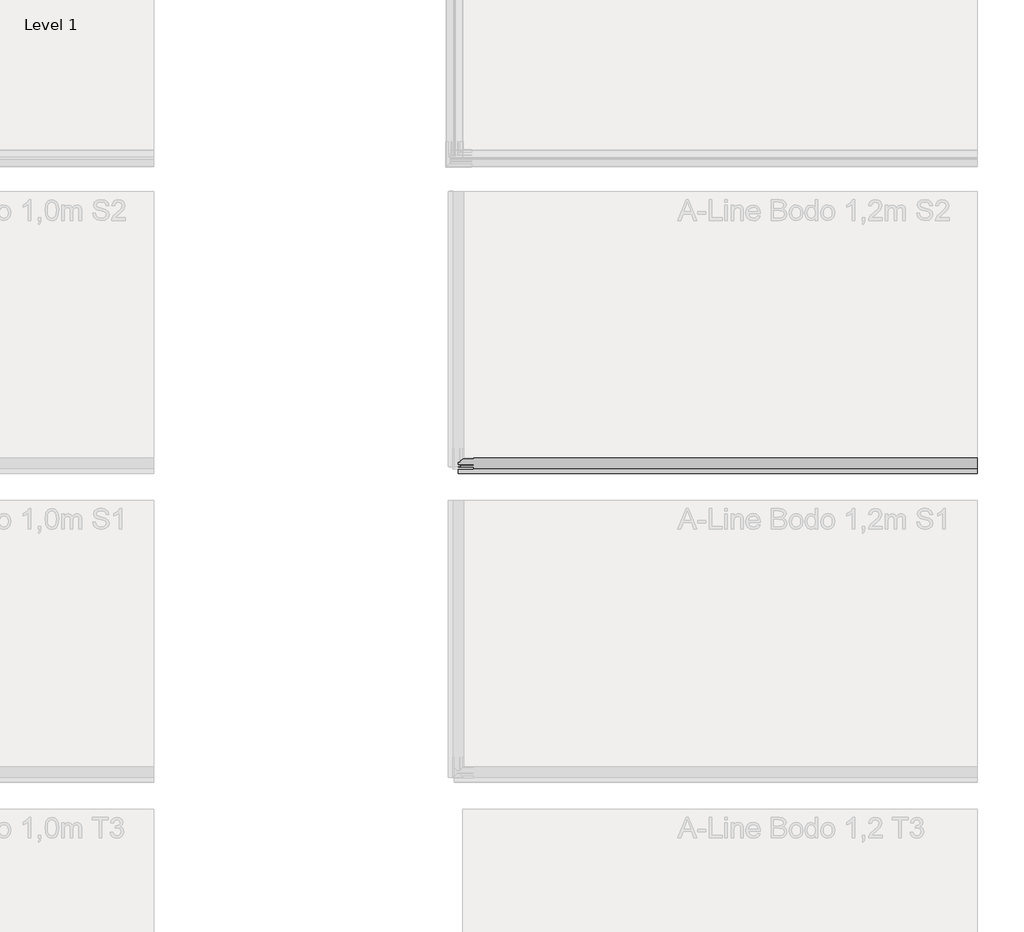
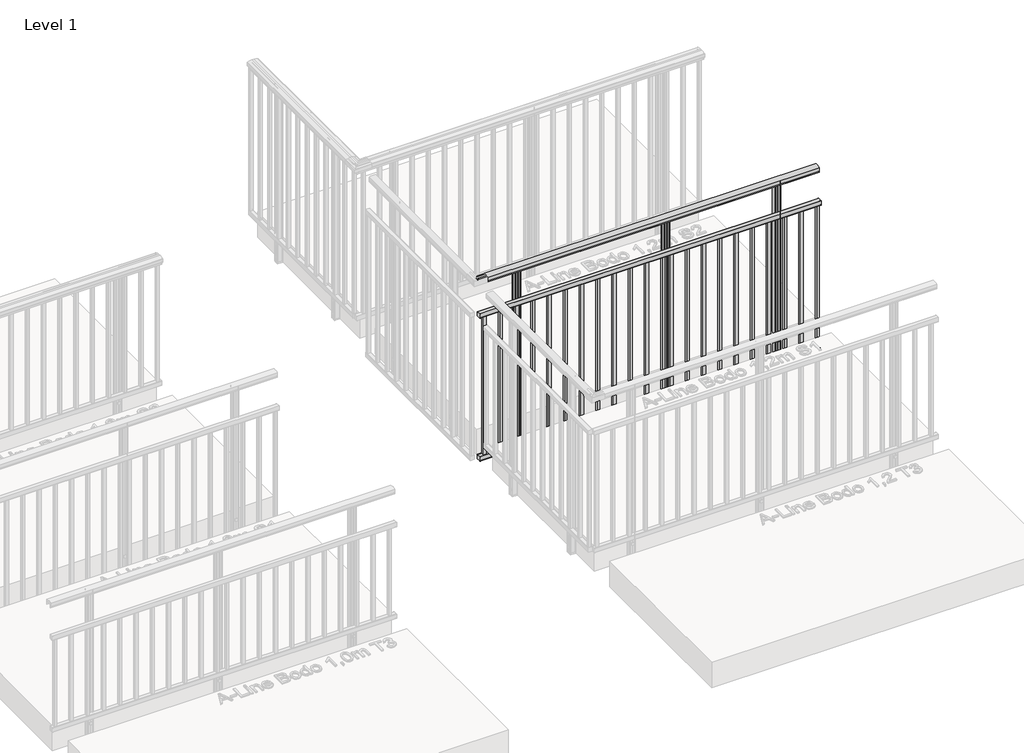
# One storey, part 7 of 66: 1 railing.
"""IFC4 building model written with IfcOpenShell, lengths in millimetres."""

from ifc_helpers import new_model, si_unit, point, frame, frame_2d, origin, place, context, project, spatial, polyline, circle_curve, trimmed, segment, composite_curve, outline, extrude, element, save

model = new_model("IFC4")

# Units and contexts
model_context = context("Model", 3, world=origin())
ifc_project = project(units=[si_unit("LENGTHUNIT", "METRE", prefix="MILLI")], contexts=[model_context])

# Site, building, storey
site = spatial("IfcSite", under=ifc_project)
building = spatial("IfcBuilding", under=site)
storey = spatial("IfcBuildingStorey", under=building, Name="Level 1", Elevation=0.0)

# Railing
placement = place(None, origin())
element("IfcRailing", 1, ObjectType="A-Line Bodo 1,2m S2", at=placement, inside=storey, context=model_context, shape_type="SweptSolid", body=[
    extrude(outline(composite_curve([segment(polyline([(-16065.1717719, 1194.1390059), (-16065.1717719, 1167.1990555), (-16065.7865549, 1166.5842725), (-16065.1717719, 1165.9694895), (-16065.1717719, 1157.2498847), (-16066.9315805, 1157.2498847), (-16066.9315805, 1180.4998829), (-16113.9266266, 1180.4998829), (-16113.9266266, 1157.2498847), (-16115.7315795, 1157.2498847), (-16115.7315795, 1165.8194895), (-16115.1094985, 1166.4415706), (-16115.6914302, 1167.0235023), (-16115.6914302, 1194.1342258)]), True, "CONTINUOUS"), segment(trimmed(circle_curve(frame_2d((-16090.4267322, 1142.6785502)), 57.3235687), [point((-16115.6914302, 1194.1342258))], [point((-16065.1717719, 1194.1390059))], False, "CARTESIAN"), True, "CONTINUOUS")], self_intersect=False)), frame((8484.0547322, 0.0, 0.0), z_axis=(1.0, 0.0, 0.0), x_axis=(0.0, 1.0, 0.0)), (0.0, 0.0, 1.0), 2520.0),
    extrude(outline(composite_curve([segment(trimmed(circle_curve(frame_2d((-16138.2613559, 949.0)), 1.0), [point((-16139.2613559, 949.0))], [point((-16138.2613559, 950.0))], False, "CARTESIAN"), True, "CONTINUOUS"), segment(polyline([(-16138.2613559, 950.0), (-16111.1613559, 950.0)]), True, "CONTINUOUS"), segment(trimmed(circle_curve(frame_2d((-16111.1613559, 949.0)), 1.0), [point((-16111.1613559, 950.0))], [point((-16110.1613559, 949.0))], False, "CARTESIAN"), True, "CONTINUOUS"), segment(polyline([(-16110.1613559, 949.0), (-16110.1613559, 916.8)]), True, "CONTINUOUS"), segment(trimmed(circle_curve(frame_2d((-16111.1613559, 916.8)), 1.0), [point((-16110.1613559, 916.8))], [point((-16111.1613559, 915.8))], False, "CARTESIAN"), True, "CONTINUOUS"), segment(polyline([(-16111.1613559, 915.8), (-16138.2613559, 915.8)]), True, "CONTINUOUS"), segment(trimmed(circle_curve(frame_2d((-16138.2613559, 916.8)), 1.0), [point((-16138.2613559, 915.8))], [point((-16139.2613559, 916.8))], False, "CARTESIAN"), True, "CONTINUOUS"), segment(polyline([(-16139.2613559, 916.8), (-16139.2613559, 949.0)]), True, "CONTINUOUS")], self_intersect=False)), frame((8484.0547322, 0.0, 0.0), z_axis=(1.0, 0.0, 0.0), x_axis=(0.0, 1.0, 0.0)), (0.0, 0.0, 1.0), 2520.0),
    extrude(outline(composite_curve([segment(polyline([(-16138.2613559, -165.8), (-16111.1613559, -165.8)]), True, "CONTINUOUS"), segment(trimmed(circle_curve(frame_2d((-16111.1613559, -166.8)), 1.0), [point((-16111.1613559, -165.8))], [point((-16110.1613559, -166.8))], False, "CARTESIAN"), True, "CONTINUOUS"), segment(polyline([(-16110.1613559, -166.8), (-16110.1613559, -199.0)]), True, "CONTINUOUS"), segment(trimmed(circle_curve(frame_2d((-16111.1613559, -199.0)), 1.0), [point((-16110.1613559, -199.0))], [point((-16111.1613559, -200.0))], False, "CARTESIAN"), True, "CONTINUOUS"), segment(polyline([(-16111.1613559, -200.0), (-16138.2613559, -200.0)]), True, "CONTINUOUS"), segment(trimmed(circle_curve(frame_2d((-16138.2613559, -199.0)), 1.0), [point((-16138.2613559, -200.0))], [point((-16139.2613559, -199.0))], False, "CARTESIAN"), True, "CONTINUOUS"), segment(polyline([(-16139.2613559, -199.0), (-16139.2613559, -166.8)]), True, "CONTINUOUS"), segment(trimmed(circle_curve(frame_2d((-16138.2613559, -166.8)), 1.0), [point((-16139.2613559, -166.8))], [point((-16138.2613559, -165.8))], False, "CARTESIAN"), True, "CONTINUOUS")], self_intersect=False)), frame((8484.0547322, 0.0, 0.0), z_axis=(1.0, 0.0, 0.0), x_axis=(0.0, 1.0, 0.0)), (0.0, 0.0, 1.0), 2520.0),
    extrude(outline(polyline([(10974.0547322, -16134.7113559), (10974.0547322, -16114.7113559), (10994.0547322, -16114.7113559), (10994.0547322, -16134.7113559), (10974.0547322, -16134.7113559)]), holes=[polyline([(10976.0547322, -16132.7113559), (10992.0547322, -16132.7113559), (10992.0547322, -16116.7113559), (10976.0547322, -16116.7113559), (10976.0547322, -16132.7113559)])]), frame((0.0, 0.0, -166.0), z_axis=(0.0, 0.0, 1.0), x_axis=(1.0, 0.0, 0.0)), (0.0, 0.0, 1.0), 1082.0),
    extrude(outline(polyline([(10854.0547322, -16134.7113559), (10854.0547322, -16114.7113559), (10874.0547322, -16114.7113559), (10874.0547322, -16134.7113559), (10854.0547322, -16134.7113559)]), holes=[polyline([(10856.0547322, -16132.7113559), (10872.0547322, -16132.7113559), (10872.0547322, -16116.7113559), (10856.0547322, -16116.7113559), (10856.0547322, -16132.7113559)])]), frame((0.0, 0.0, -166.0), z_axis=(0.0, 0.0, 1.0), x_axis=(1.0, 0.0, 0.0)), (0.0, 0.0, 1.0), 1082.0),
    extrude(outline(polyline([(10734.0547322, -16134.7113559), (10734.0547322, -16114.7113559), (10754.0547322, -16114.7113559), (10754.0547322, -16134.7113559), (10734.0547322, -16134.7113559)]), holes=[polyline([(10736.0547322, -16132.7113559), (10752.0547322, -16132.7113559), (10752.0547322, -16116.7113559), (10736.0547322, -16116.7113559), (10736.0547322, -16132.7113559)])]), frame((0.0, 0.0, -166.0), z_axis=(0.0, 0.0, 1.0), x_axis=(1.0, 0.0, 0.0)), (0.0, 0.0, 1.0), 1082.0),
    extrude(outline(polyline([(10614.0547322, -16134.7113559), (10614.0547322, -16114.7113559), (10634.0547322, -16114.7113559), (10634.0547322, -16134.7113559), (10614.0547322, -16134.7113559)]), holes=[polyline([(10616.0547322, -16132.7113559), (10632.0547322, -16132.7113559), (10632.0547322, -16116.7113559), (10616.0547322, -16116.7113559), (10616.0547322, -16132.7113559)])]), frame((0.0, 0.0, -166.0), z_axis=(0.0, 0.0, 1.0), x_axis=(1.0, 0.0, 0.0)), (0.0, 0.0, 1.0), 1082.0),
    extrude(outline(polyline([(10494.0547322, -16134.7113559), (10494.0547322, -16114.7113559), (10514.0547322, -16114.7113559), (10514.0547322, -16134.7113559), (10494.0547322, -16134.7113559)]), holes=[polyline([(10496.0547322, -16132.7113559), (10512.0547322, -16132.7113559), (10512.0547322, -16116.7113559), (10496.0547322, -16116.7113559), (10496.0547322, -16132.7113559)])]), frame((0.0, 0.0, -166.0), z_axis=(0.0, 0.0, 1.0), x_axis=(1.0, 0.0, 0.0)), (0.0, 0.0, 1.0), 1082.0),
    extrude(outline(polyline([(10374.0547322, -16134.7113559), (10374.0547322, -16114.7113559), (10394.0547322, -16114.7113559), (10394.0547322, -16134.7113559), (10374.0547322, -16134.7113559)]), holes=[polyline([(10376.0547322, -16132.7113559), (10392.0547322, -16132.7113559), (10392.0547322, -16116.7113559), (10376.0547322, -16116.7113559), (10376.0547322, -16132.7113559)])]), frame((0.0, 0.0, -166.0), z_axis=(0.0, 0.0, 1.0), x_axis=(1.0, 0.0, 0.0)), (0.0, 0.0, 1.0), 1082.0),
    extrude(outline(polyline([(10254.0547322, -16134.7113559), (10254.0547322, -16114.7113559), (10274.0547322, -16114.7113559), (10274.0547322, -16134.7113559), (10254.0547322, -16134.7113559)]), holes=[polyline([(10256.0547322, -16132.7113559), (10272.0547322, -16132.7113559), (10272.0547322, -16116.7113559), (10256.0547322, -16116.7113559), (10256.0547322, -16132.7113559)])]), frame((0.0, 0.0, -166.0), z_axis=(0.0, 0.0, 1.0), x_axis=(1.0, 0.0, 0.0)), (0.0, 0.0, 1.0), 1082.0),
    extrude(outline(polyline([(10134.0547322, -16134.7113559), (10134.0547322, -16114.7113559), (10154.0547322, -16114.7113559), (10154.0547322, -16134.7113559), (10134.0547322, -16134.7113559)]), holes=[polyline([(10136.0547322, -16132.7113559), (10152.0547322, -16132.7113559), (10152.0547322, -16116.7113559), (10136.0547322, -16116.7113559), (10136.0547322, -16132.7113559)])]), frame((0.0, 0.0, -166.0), z_axis=(0.0, 0.0, 1.0), x_axis=(1.0, 0.0, 0.0)), (0.0, 0.0, 1.0), 1082.0),
    extrude(outline(polyline([(10014.0547322, -16134.7113559), (10014.0547322, -16114.7113559), (10034.0547322, -16114.7113559), (10034.0547322, -16134.7113559), (10014.0547322, -16134.7113559)]), holes=[polyline([(10016.0547322, -16132.7113559), (10032.0547322, -16132.7113559), (10032.0547322, -16116.7113559), (10016.0547322, -16116.7113559), (10016.0547322, -16132.7113559)])]), frame((0.0, 0.0, -166.0), z_axis=(0.0, 0.0, 1.0), x_axis=(1.0, 0.0, 0.0)), (0.0, 0.0, 1.0), 1082.0),
    extrude(outline(polyline([(9894.0547322, -16134.7113559), (9894.0547322, -16114.7113559), (9914.0547322, -16114.7113559), (9914.0547322, -16134.7113559), (9894.0547322, -16134.7113559)]), holes=[polyline([(9896.0547322, -16132.7113559), (9912.0547322, -16132.7113559), (9912.0547322, -16116.7113559), (9896.0547322, -16116.7113559), (9896.0547322, -16132.7113559)])]), frame((0.0, 0.0, -166.0), z_axis=(0.0, 0.0, 1.0), x_axis=(1.0, 0.0, 0.0)), (0.0, 0.0, 1.0), 1082.0),
    extrude(outline(polyline([(9834.0547322, -16134.7113559), (9834.0547322, -16114.7113559), (9854.0547322, -16114.7113559), (9854.0547322, -16134.7113559), (9834.0547322, -16134.7113559)]), holes=[polyline([(9836.0547322, -16132.7113559), (9852.0547322, -16132.7113559), (9852.0547322, -16116.7113559), (9836.0547322, -16116.7113559), (9836.0547322, -16132.7113559)])]), frame((0.0, 0.0, -166.0), z_axis=(0.0, 0.0, 1.0), x_axis=(1.0, 0.0, 0.0)), (0.0, 0.0, 1.0), 1082.0),
    extrude(outline(polyline([(9714.0547322, -16134.7113559), (9714.0547322, -16114.7113559), (9734.0547322, -16114.7113559), (9734.0547322, -16134.7113559), (9714.0547322, -16134.7113559)]), holes=[polyline([(9716.0547322, -16132.7113559), (9732.0547322, -16132.7113559), (9732.0547322, -16116.7113559), (9716.0547322, -16116.7113559), (9716.0547322, -16132.7113559)])]), frame((0.0, 0.0, -166.0), z_axis=(0.0, 0.0, 1.0), x_axis=(1.0, 0.0, 0.0)), (0.0, 0.0, 1.0), 1082.0),
    extrude(outline(polyline([(9594.0547322, -16134.7113559), (9594.0547322, -16114.7113559), (9614.0547322, -16114.7113559), (9614.0547322, -16134.7113559), (9594.0547322, -16134.7113559)]), holes=[polyline([(9596.0547322, -16132.7113559), (9612.0547322, -16132.7113559), (9612.0547322, -16116.7113559), (9596.0547322, -16116.7113559), (9596.0547322, -16132.7113559)])]), frame((0.0, 0.0, -166.0), z_axis=(0.0, 0.0, 1.0), x_axis=(1.0, 0.0, 0.0)), (0.0, 0.0, 1.0), 1082.0),
    extrude(outline(polyline([(9474.0547322, -16134.7113559), (9474.0547322, -16114.7113559), (9494.0547322, -16114.7113559), (9494.0547322, -16134.7113559), (9474.0547322, -16134.7113559)]), holes=[polyline([(9476.0547322, -16132.7113559), (9492.0547322, -16132.7113559), (9492.0547322, -16116.7113559), (9476.0547322, -16116.7113559), (9476.0547322, -16132.7113559)])]), frame((0.0, 0.0, -166.0), z_axis=(0.0, 0.0, 1.0), x_axis=(1.0, 0.0, 0.0)), (0.0, 0.0, 1.0), 1082.0),
    extrude(outline(polyline([(9354.0547322, -16134.7113559), (9354.0547322, -16114.7113559), (9374.0547322, -16114.7113559), (9374.0547322, -16134.7113559), (9354.0547322, -16134.7113559)]), holes=[polyline([(9356.0547322, -16132.7113559), (9372.0547322, -16132.7113559), (9372.0547322, -16116.7113559), (9356.0547322, -16116.7113559), (9356.0547322, -16132.7113559)])]), frame((0.0, 0.0, -166.0), z_axis=(0.0, 0.0, 1.0), x_axis=(1.0, 0.0, 0.0)), (0.0, 0.0, 1.0), 1082.0),
    extrude(outline(polyline([(9234.0547322, -16134.7113559), (9234.0547322, -16114.7113559), (9254.0547322, -16114.7113559), (9254.0547322, -16134.7113559), (9234.0547322, -16134.7113559)]), holes=[polyline([(9236.0547322, -16132.7113559), (9252.0547322, -16132.7113559), (9252.0547322, -16116.7113559), (9236.0547322, -16116.7113559), (9236.0547322, -16132.7113559)])]), frame((0.0, 0.0, -166.0), z_axis=(0.0, 0.0, 1.0), x_axis=(1.0, 0.0, 0.0)), (0.0, 0.0, 1.0), 1082.0),
    extrude(outline(polyline([(9114.0547322, -16134.7113559), (9114.0547322, -16114.7113559), (9134.0547322, -16114.7113559), (9134.0547322, -16134.7113559), (9114.0547322, -16134.7113559)]), holes=[polyline([(9116.0547322, -16132.7113559), (9132.0547322, -16132.7113559), (9132.0547322, -16116.7113559), (9116.0547322, -16116.7113559), (9116.0547322, -16132.7113559)])]), frame((0.0, 0.0, -166.0), z_axis=(0.0, 0.0, 1.0), x_axis=(1.0, 0.0, 0.0)), (0.0, 0.0, 1.0), 1082.0),
    extrude(outline(polyline([(8994.0547322, -16134.7113559), (8994.0547322, -16114.7113559), (9014.0547322, -16114.7113559), (9014.0547322, -16134.7113559), (8994.0547322, -16134.7113559)]), holes=[polyline([(8996.0547322, -16132.7113559), (9012.0547322, -16132.7113559), (9012.0547322, -16116.7113559), (8996.0547322, -16116.7113559), (8996.0547322, -16132.7113559)])]), frame((0.0, 0.0, -166.0), z_axis=(0.0, 0.0, 1.0), x_axis=(1.0, 0.0, 0.0)), (0.0, 0.0, 1.0), 1082.0),
    extrude(outline(polyline([(8874.0547322, -16134.7113559), (8874.0547322, -16114.7113559), (8894.0547322, -16114.7113559), (8894.0547322, -16134.7113559), (8874.0547322, -16134.7113559)]), holes=[polyline([(8876.0547322, -16132.7113559), (8892.0547322, -16132.7113559), (8892.0547322, -16116.7113559), (8876.0547322, -16116.7113559), (8876.0547322, -16132.7113559)])]), frame((0.0, 0.0, -166.0), z_axis=(0.0, 0.0, 1.0), x_axis=(1.0, 0.0, 0.0)), (0.0, 0.0, 1.0), 1082.0),
    extrude(outline(polyline([(8754.0547322, -16134.7113559), (8754.0547322, -16114.7113559), (8774.0547322, -16114.7113559), (8774.0547322, -16134.7113559), (8754.0547322, -16134.7113559)]), holes=[polyline([(8756.0547322, -16132.7113559), (8772.0547322, -16132.7113559), (8772.0547322, -16116.7113559), (8756.0547322, -16116.7113559), (8756.0547322, -16132.7113559)])]), frame((0.0, 0.0, -166.0), z_axis=(0.0, 0.0, 1.0), x_axis=(1.0, 0.0, 0.0)), (0.0, 0.0, 1.0), 1082.0),
    extrude(outline(polyline([(8634.0547322, -16134.7113559), (8634.0547322, -16114.7113559), (8654.0547322, -16114.7113559), (8654.0547322, -16134.7113559), (8634.0547322, -16134.7113559)]), holes=[polyline([(8636.0547322, -16132.7113559), (8652.0547322, -16132.7113559), (8652.0547322, -16116.7113559), (8636.0547322, -16116.7113559), (8636.0547322, -16132.7113559)])]), frame((0.0, 0.0, -166.0), z_axis=(0.0, 0.0, 1.0), x_axis=(1.0, 0.0, 0.0)), (0.0, 0.0, 1.0), 1082.0),
    extrude(outline(polyline([(8514.0547322, -16134.7113559), (8514.0547322, -16114.7113559), (8534.0547322, -16114.7113559), (8534.0547322, -16134.7113559), (8514.0547322, -16134.7113559)]), holes=[polyline([(8516.0547322, -16132.7113559), (8532.0547322, -16132.7113559), (8532.0547322, -16116.7113559), (8516.0547322, -16116.7113559), (8516.0547322, -16132.7113559)])]), frame((0.0, 0.0, -166.0), z_axis=(0.0, 0.0, 1.0), x_axis=(1.0, 0.0, 0.0)), (0.0, 0.0, 1.0), 1082.0),
    extrude(outline(composite_curve([segment(polyline([(9884.8575193, -16069.7113559), (9901.8808192, -16069.7113559)]), True, "CONTINUOUS"), segment(trimmed(circle_curve(frame_2d((9901.8808192, -16071.885269)), 2.173913), [point((9901.8808192, -16069.7113559))], [point((9904.0547322, -16071.885269))], False, "CARTESIAN"), True, "CONTINUOUS"), segment(polyline([(9904.0547322, -16071.885269), (9904.0547322, -16107.5374429)]), True, "CONTINUOUS"), segment(trimmed(circle_curve(frame_2d((9901.8808192, -16107.5374429)), 2.173913), [point((9904.0547322, -16107.5374429))], [point((9901.8808192, -16109.7113559))], False, "CARTESIAN"), True, "CONTINUOUS"), segment(polyline([(9901.8808192, -16109.7113559), (9884.8225694, -16109.676406), (9884.0547322, -16108.9085689), (9883.2868951, -16109.676406), (9866.2286453, -16109.7113559)]), True, "CONTINUOUS"), segment(trimmed(circle_curve(frame_2d((9866.2286453, -16107.5374429)), 2.173913), [point((9866.2286453, -16109.7113559))], [point((9864.0547322, -16107.5374429))], False, "CARTESIAN"), True, "CONTINUOUS"), segment(polyline([(9864.0547322, -16107.5374429), (9864.0547322, -16071.885269)]), True, "CONTINUOUS"), segment(trimmed(circle_curve(frame_2d((9866.2286453, -16071.885269)), 2.173913), [point((9864.0547322, -16071.885269))], [point((9866.2286452, -16069.7113559))], False, "CARTESIAN"), True, "CONTINUOUS"), segment(polyline([(9866.2286452, -16069.7113559), (9883.2868951, -16069.7463058), (9884.0547322, -16070.5141429), (9884.8575193, -16069.7113559)]), True, "CONTINUOUS")], self_intersect=False)), frame((0.0, 0.0, -200.0), z_axis=(0.0, 0.0, 1.0), x_axis=(1.0, 0.0, 0.0)), (0.0, 0.0, 1.0), 10.0),
    extrude(outline(composite_curve([segment(trimmed(circle_curve(frame_2d((0.0, 12.0)), 12.0), [point((0.0, 23.9999999))], [point((0.0, 0.0))], False, "CARTESIAN"), True, "CONTINUOUS"), segment(trimmed(circle_curve(frame_2d((0.0, 12.0)), 12.0), [point((0.0, 0.0))], [point((0.0, 23.9999999))], False, "CARTESIAN"), True, "CONTINUOUS")], self_intersect=False)), frame((9872.0444554, -16112.7751851, -151.0), z_axis=(0.00040291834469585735, 0.9999999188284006, 0.0), x_axis=(0.0, 0.0, 1.0)), (0.0, 0.0, 1.0), 3.0757477),
    extrude(outline(composite_curve([segment(trimmed(circle_curve(frame_2d((0.0, 12.0)), 12.0), [point((0.0, 23.9999999))], [point((0.0, 0.0))], False, "CARTESIAN"), True, "CONTINUOUS"), segment(trimmed(circle_curve(frame_2d((0.0, 12.0)), 12.0), [point((0.0, 0.0))], [point((0.0, 23.9999999))], False, "CARTESIAN"), True, "CONTINUOUS")], self_intersect=False)), frame((9872.0444554, -16112.7751851, -50.0), z_axis=(0.00040291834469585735, 0.9999999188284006, 0.0), x_axis=(0.0, 0.0, 1.0)), (0.0, 0.0, 1.0), 3.0757477),
    extrude(outline(composite_curve([segment(trimmed(circle_curve(frame_2d((9866.2286453, -16071.885269)), 2.173913), [point((9864.0547322, -16071.885269))], [point((9866.2286453, -16069.7113559))], False, "CARTESIAN"), True, "CONTINUOUS"), segment(polyline([(9866.2286453, -16069.7113559), (9883.2868951, -16069.7463058), (9884.185167, -16070.1143102), (9884.9530042, -16069.7113559), (9901.8808192, -16069.7113559)]), True, "CONTINUOUS"), segment(trimmed(circle_curve(frame_2d((9901.8808192, -16071.885269)), 2.173913), [point((9901.8808192, -16069.7113559))], [point((9904.0547322, -16071.885269))], False, "CARTESIAN"), True, "CONTINUOUS"), segment(polyline([(9904.0547322, -16071.885269), (9904.0547322, -16107.5374429)]), True, "CONTINUOUS"), segment(trimmed(circle_curve(frame_2d((9901.8808192, -16107.5374429)), 2.173913), [point((9904.0547322, -16107.5374429))], [point((9901.8808192, -16109.7113559))], False, "CARTESIAN"), True, "CONTINUOUS"), segment(polyline([(9901.8808192, -16109.7113559), (9884.8225694, -16109.676406), (9884.0547322, -16108.9085689), (9883.2868951, -16109.676406), (9866.2286453, -16109.7113559)]), True, "CONTINUOUS"), segment(trimmed(circle_curve(frame_2d((9866.2286453, -16107.5374429)), 2.173913), [point((9866.2286453, -16109.7113559))], [point((9864.0547322, -16107.5374429))], False, "CARTESIAN"), True, "CONTINUOUS"), segment(polyline([(9864.0547322, -16107.5374429), (9864.0547322, -16071.885269)]), True, "CONTINUOUS")], self_intersect=False), holes=[composite_curve([segment(polyline([(9867.5329931, -16074.059182), (9867.5329931, -16105.3635298)]), True, "CONTINUOUS"), segment(trimmed(circle_curve(frame_2d((9868.4025583, -16105.3635298)), 0.8695652), [point((9867.5329931, -16105.3635298))], [point((9868.4025583, -16106.233095))], True, "CARTESIAN"), True, "CONTINUOUS"), segment(polyline([(9868.4025583, -16106.233095), (9899.7069062, -16106.233095)]), True, "CONTINUOUS"), segment(trimmed(circle_curve(frame_2d((9899.7069062, -16105.3635298)), 0.8695652), [point((9899.7069062, -16106.233095))], [point((9900.5764714, -16105.3635298))], True, "CARTESIAN"), True, "CONTINUOUS"), segment(polyline([(9900.5764714, -16105.3635298), (9900.5764714, -16074.059182)]), True, "CONTINUOUS"), segment(trimmed(circle_curve(frame_2d((9899.7069062, -16074.059182)), 0.8695652), [point((9900.5764714, -16074.059182))], [point((9899.7069062, -16073.1896168))], True, "CARTESIAN"), True, "CONTINUOUS"), segment(polyline([(9899.7069062, -16073.1896168), (9868.4025583, -16073.1896168)]), True, "CONTINUOUS"), segment(trimmed(circle_curve(frame_2d((9868.4025583, -16074.059182)), 0.8695652), [point((9868.4025583, -16073.1896168))], [point((9867.5329931, -16074.059182))], True, "CARTESIAN"), True, "CONTINUOUS")], self_intersect=False)]), frame((0.0, 0.0, -190.0), z_axis=(0.0, 0.0, 1.0), x_axis=(1.0, 0.0, 0.0)), (0.0, 0.0, 1.0), 1370.0),
    extrude(outline(composite_curve([segment(polyline([(10704.8575193, -16069.7113559), (10721.8808192, -16069.7113559)]), True, "CONTINUOUS"), segment(trimmed(circle_curve(frame_2d((10721.8808192, -16071.885269)), 2.173913), [point((10721.8808192, -16069.7113559))], [point((10724.0547322, -16071.885269))], False, "CARTESIAN"), True, "CONTINUOUS"), segment(polyline([(10724.0547322, -16071.885269), (10724.0547322, -16107.5374429)]), True, "CONTINUOUS"), segment(trimmed(circle_curve(frame_2d((10721.8808192, -16107.5374429)), 2.173913), [point((10724.0547322, -16107.5374429))], [point((10721.8808192, -16109.7113559))], False, "CARTESIAN"), True, "CONTINUOUS"), segment(polyline([(10721.8808192, -16109.7113559), (10704.8225694, -16109.676406), (10704.0547322, -16108.9085689), (10703.2868951, -16109.676406), (10686.2286453, -16109.7113559)]), True, "CONTINUOUS"), segment(trimmed(circle_curve(frame_2d((10686.2286453, -16107.5374429)), 2.173913), [point((10686.2286453, -16109.7113559))], [point((10684.0547322, -16107.5374429))], False, "CARTESIAN"), True, "CONTINUOUS"), segment(polyline([(10684.0547322, -16107.5374429), (10684.0547322, -16071.885269)]), True, "CONTINUOUS"), segment(trimmed(circle_curve(frame_2d((10686.2286453, -16071.885269)), 2.173913), [point((10684.0547322, -16071.885269))], [point((10686.2286452, -16069.7113559))], False, "CARTESIAN"), True, "CONTINUOUS"), segment(polyline([(10686.2286452, -16069.7113559), (10703.2868951, -16069.7463058), (10704.0547322, -16070.5141429), (10704.8575193, -16069.7113559)]), True, "CONTINUOUS")], self_intersect=False)), frame((0.0, 0.0, -200.0), z_axis=(0.0, 0.0, 1.0), x_axis=(1.0, 0.0, 0.0)), (0.0, 0.0, 1.0), 10.0),
    extrude(outline(composite_curve([segment(trimmed(circle_curve(frame_2d((0.0, 12.0)), 12.0), [point((0.0, 23.9999999))], [point((0.0, 0.0))], False, "CARTESIAN"), True, "CONTINUOUS"), segment(trimmed(circle_curve(frame_2d((0.0, 12.0)), 12.0), [point((0.0, 0.0))], [point((0.0, 23.9999999))], False, "CARTESIAN"), True, "CONTINUOUS")], self_intersect=False)), frame((10692.0444554, -16112.7751851, -151.0), z_axis=(0.0004029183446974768, 0.9999999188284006, 0.0), x_axis=(0.0, 0.0, 1.0)), (0.0, 0.0, 1.0), 3.0757477),
    extrude(outline(composite_curve([segment(trimmed(circle_curve(frame_2d((0.0, 12.0)), 12.0), [point((0.0, 23.9999999))], [point((0.0, 0.0))], False, "CARTESIAN"), True, "CONTINUOUS"), segment(trimmed(circle_curve(frame_2d((0.0, 12.0)), 12.0), [point((0.0, 0.0))], [point((0.0, 23.9999999))], False, "CARTESIAN"), True, "CONTINUOUS")], self_intersect=False)), frame((10692.0444554, -16112.7751851, -50.0), z_axis=(0.0004029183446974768, 0.9999999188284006, 0.0), x_axis=(0.0, 0.0, 1.0)), (0.0, 0.0, 1.0), 3.0757477),
    extrude(outline(composite_curve([segment(trimmed(circle_curve(frame_2d((10686.2286453, -16071.885269)), 2.173913), [point((10684.0547322, -16071.885269))], [point((10686.2286453, -16069.7113559))], False, "CARTESIAN"), True, "CONTINUOUS"), segment(polyline([(10686.2286453, -16069.7113559), (10703.2868951, -16069.7463058), (10704.185167, -16070.1143102), (10704.9530042, -16069.7113559), (10721.8808192, -16069.7113559)]), True, "CONTINUOUS"), segment(trimmed(circle_curve(frame_2d((10721.8808192, -16071.885269)), 2.173913), [point((10721.8808192, -16069.7113559))], [point((10724.0547322, -16071.885269))], False, "CARTESIAN"), True, "CONTINUOUS"), segment(polyline([(10724.0547322, -16071.885269), (10724.0547322, -16107.5374429)]), True, "CONTINUOUS"), segment(trimmed(circle_curve(frame_2d((10721.8808192, -16107.5374429)), 2.173913), [point((10724.0547322, -16107.5374429))], [point((10721.8808192, -16109.7113559))], False, "CARTESIAN"), True, "CONTINUOUS"), segment(polyline([(10721.8808192, -16109.7113559), (10704.8225694, -16109.676406), (10704.0547322, -16108.9085689), (10703.2868951, -16109.676406), (10686.2286453, -16109.7113559)]), True, "CONTINUOUS"), segment(trimmed(circle_curve(frame_2d((10686.2286453, -16107.5374429)), 2.173913), [point((10686.2286453, -16109.7113559))], [point((10684.0547322, -16107.5374429))], False, "CARTESIAN"), True, "CONTINUOUS"), segment(polyline([(10684.0547322, -16107.5374429), (10684.0547322, -16071.885269)]), True, "CONTINUOUS")], self_intersect=False), holes=[composite_curve([segment(polyline([(10687.5329931, -16074.059182), (10687.5329931, -16105.3635298)]), True, "CONTINUOUS"), segment(trimmed(circle_curve(frame_2d((10688.4025583, -16105.3635298)), 0.8695652), [point((10687.5329931, -16105.3635298))], [point((10688.4025583, -16106.233095))], True, "CARTESIAN"), True, "CONTINUOUS"), segment(polyline([(10688.4025583, -16106.233095), (10719.7069062, -16106.233095)]), True, "CONTINUOUS"), segment(trimmed(circle_curve(frame_2d((10719.7069062, -16105.3635298)), 0.8695652), [point((10719.7069062, -16106.233095))], [point((10720.5764714, -16105.3635298))], True, "CARTESIAN"), True, "CONTINUOUS"), segment(polyline([(10720.5764714, -16105.3635298), (10720.5764714, -16074.059182)]), True, "CONTINUOUS"), segment(trimmed(circle_curve(frame_2d((10719.7069062, -16074.059182)), 0.8695652), [point((10720.5764714, -16074.059182))], [point((10719.7069062, -16073.1896168))], True, "CARTESIAN"), True, "CONTINUOUS"), segment(polyline([(10719.7069062, -16073.1896168), (10688.4025583, -16073.1896168)]), True, "CONTINUOUS"), segment(trimmed(circle_curve(frame_2d((10688.4025583, -16074.059182)), 0.8695652), [point((10688.4025583, -16073.1896168))], [point((10687.5329931, -16074.059182))], True, "CARTESIAN"), True, "CONTINUOUS")], self_intersect=False)]), frame((0.0, 0.0, -190.0), z_axis=(0.0, 0.0, 1.0), x_axis=(1.0, 0.0, 0.0)), (0.0, 0.0, 1.0), 1371.0),
    extrude(outline(composite_curve([segment(polyline([(8784.8575193, -16069.7113559), (8801.8808192, -16069.7113559)]), True, "CONTINUOUS"), segment(trimmed(circle_curve(frame_2d((8801.8808192, -16071.885269)), 2.173913), [point((8801.8808192, -16069.7113559))], [point((8804.0547322, -16071.885269))], False, "CARTESIAN"), True, "CONTINUOUS"), segment(polyline([(8804.0547322, -16071.885269), (8804.0547322, -16107.5374429)]), True, "CONTINUOUS"), segment(trimmed(circle_curve(frame_2d((8801.8808192, -16107.5374429)), 2.173913), [point((8804.0547322, -16107.5374429))], [point((8801.8808192, -16109.7113559))], False, "CARTESIAN"), True, "CONTINUOUS"), segment(polyline([(8801.8808192, -16109.7113559), (8784.8225694, -16109.676406), (8784.0547322, -16108.9085689), (8783.2868951, -16109.676406), (8766.2286453, -16109.7113559)]), True, "CONTINUOUS"), segment(trimmed(circle_curve(frame_2d((8766.2286453, -16107.5374429)), 2.173913), [point((8766.2286453, -16109.7113559))], [point((8764.0547322, -16107.5374429))], False, "CARTESIAN"), True, "CONTINUOUS"), segment(polyline([(8764.0547322, -16107.5374429), (8764.0547322, -16071.885269)]), True, "CONTINUOUS"), segment(trimmed(circle_curve(frame_2d((8766.2286453, -16071.885269)), 2.173913), [point((8764.0547322, -16071.885269))], [point((8766.2286452, -16069.7113559))], False, "CARTESIAN"), True, "CONTINUOUS"), segment(polyline([(8766.2286452, -16069.7113559), (8783.2868951, -16069.7463058), (8784.0547322, -16070.5141429), (8784.8575193, -16069.7113559)]), True, "CONTINUOUS")], self_intersect=False)), frame((0.0, 0.0, -200.0), z_axis=(0.0, 0.0, 1.0), x_axis=(1.0, 0.0, 0.0)), (0.0, 0.0, 1.0), 10.0),
    extrude(outline(composite_curve([segment(trimmed(circle_curve(frame_2d((0.0, 12.0)), 12.0), [point((0.0, 23.9999999))], [point((0.0, 0.0))], False, "CARTESIAN"), True, "CONTINUOUS"), segment(trimmed(circle_curve(frame_2d((0.0, 12.0)), 12.0), [point((0.0, 0.0))], [point((0.0, 23.9999999))], False, "CARTESIAN"), True, "CONTINUOUS")], self_intersect=False)), frame((8772.0444554, -16112.7751851, -151.0), z_axis=(0.00040291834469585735, 0.9999999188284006, 0.0), x_axis=(0.0, 0.0, 1.0)), (0.0, 0.0, 1.0), 3.0757477),
    extrude(outline(composite_curve([segment(trimmed(circle_curve(frame_2d((0.0, 12.0)), 12.0), [point((0.0, 23.9999999))], [point((0.0, 0.0))], False, "CARTESIAN"), True, "CONTINUOUS"), segment(trimmed(circle_curve(frame_2d((0.0, 12.0)), 12.0), [point((0.0, 0.0))], [point((0.0, 23.9999999))], False, "CARTESIAN"), True, "CONTINUOUS")], self_intersect=False)), frame((8772.0444554, -16112.7751851, -50.0), z_axis=(0.00040291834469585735, 0.9999999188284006, 0.0), x_axis=(0.0, 0.0, 1.0)), (0.0, 0.0, 1.0), 3.0757477),
    extrude(outline(composite_curve([segment(trimmed(circle_curve(frame_2d((8766.2286453, -16071.885269)), 2.173913), [point((8764.0547322, -16071.885269))], [point((8766.2286453, -16069.7113559))], False, "CARTESIAN"), True, "CONTINUOUS"), segment(polyline([(8766.2286453, -16069.7113559), (8783.2868951, -16069.7463058), (8784.185167, -16070.1143102), (8784.9530042, -16069.7113559), (8801.8808192, -16069.7113559)]), True, "CONTINUOUS"), segment(trimmed(circle_curve(frame_2d((8801.8808192, -16071.885269)), 2.173913), [point((8801.8808192, -16069.7113559))], [point((8804.0547322, -16071.885269))], False, "CARTESIAN"), True, "CONTINUOUS"), segment(polyline([(8804.0547322, -16071.885269), (8804.0547322, -16107.5374429)]), True, "CONTINUOUS"), segment(trimmed(circle_curve(frame_2d((8801.8808192, -16107.5374429)), 2.173913), [point((8804.0547322, -16107.5374429))], [point((8801.8808192, -16109.7113559))], False, "CARTESIAN"), True, "CONTINUOUS"), segment(polyline([(8801.8808192, -16109.7113559), (8784.8225694, -16109.676406), (8784.0547322, -16108.9085689), (8783.2868951, -16109.676406), (8766.2286453, -16109.7113559)]), True, "CONTINUOUS"), segment(trimmed(circle_curve(frame_2d((8766.2286453, -16107.5374429)), 2.173913), [point((8766.2286453, -16109.7113559))], [point((8764.0547322, -16107.5374429))], False, "CARTESIAN"), True, "CONTINUOUS"), segment(polyline([(8764.0547322, -16107.5374429), (8764.0547322, -16071.885269)]), True, "CONTINUOUS")], self_intersect=False), holes=[composite_curve([segment(polyline([(8767.5329931, -16074.059182), (8767.5329931, -16105.3635298)]), True, "CONTINUOUS"), segment(trimmed(circle_curve(frame_2d((8768.4025583, -16105.3635298)), 0.8695652), [point((8767.5329931, -16105.3635298))], [point((8768.4025583, -16106.233095))], True, "CARTESIAN"), True, "CONTINUOUS"), segment(polyline([(8768.4025583, -16106.233095), (8799.7069062, -16106.233095)]), True, "CONTINUOUS"), segment(trimmed(circle_curve(frame_2d((8799.7069062, -16105.3635298)), 0.8695652), [point((8799.7069062, -16106.233095))], [point((8800.5764714, -16105.3635298))], True, "CARTESIAN"), True, "CONTINUOUS"), segment(polyline([(8800.5764714, -16105.3635298), (8800.5764714, -16074.059182)]), True, "CONTINUOUS"), segment(trimmed(circle_curve(frame_2d((8799.7069062, -16074.059182)), 0.8695652), [point((8800.5764714, -16074.059182))], [point((8799.7069062, -16073.1896168))], True, "CARTESIAN"), True, "CONTINUOUS"), segment(polyline([(8799.7069062, -16073.1896168), (8768.4025583, -16073.1896168)]), True, "CONTINUOUS"), segment(trimmed(circle_curve(frame_2d((8768.4025583, -16074.059182)), 0.8695652), [point((8768.4025583, -16073.1896168))], [point((8767.5329931, -16074.059182))], True, "CARTESIAN"), True, "CONTINUOUS")], self_intersect=False)]), frame((0.0, 0.0, -190.0), z_axis=(0.0, 0.0, 1.0), x_axis=(1.0, 0.0, 0.0)), (0.0, 0.0, 1.0), 1371.0),
])

save(model, "model.ifc")
